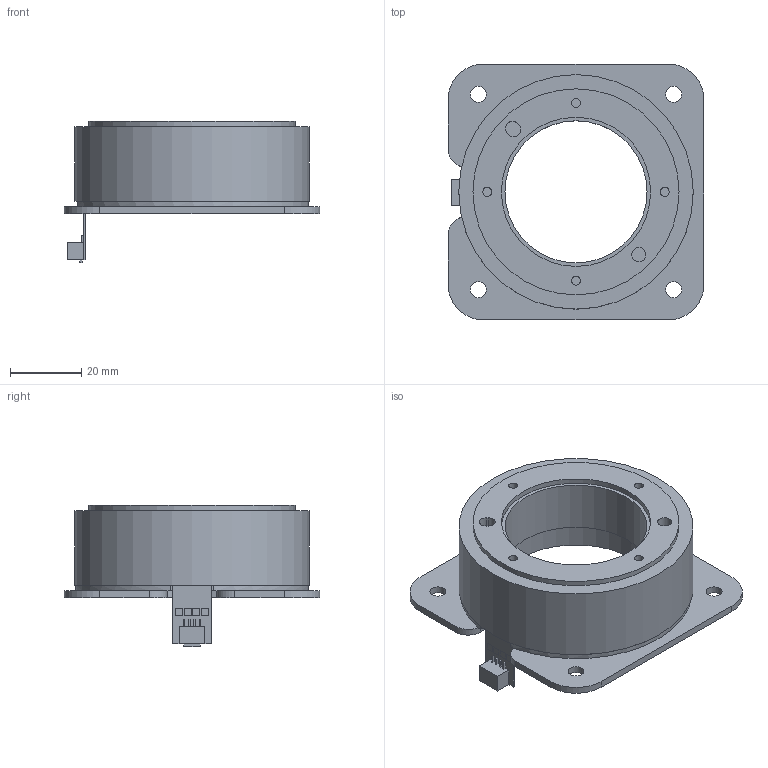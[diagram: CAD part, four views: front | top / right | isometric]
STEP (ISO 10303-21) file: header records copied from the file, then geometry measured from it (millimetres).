
FILE_DESCRIPTION(/* description */ (''),/* implementation_level */ '2;1');
FILE_NAME(/* name */ 'DM6624_11.stp',/* time_stamp */ '2020-03-11T14:31:59+01:00',/* author */ ('DR. FRITZ FAULHABER GmbH & Co. KG'),/* organization */ ('DR. FRITZ FAULHABER GmbH & Co. KG'),/* preprocessor_version */ 'ST-DEVELOPER v16.7',/* originating_system */ 'SIEMENS PLM Software NX 12.0',/* authorisation */ '');
FILE_SCHEMA (('AUTOMOTIVE_DESIGN { 1 0 10303 214 3 1 1 1 }'));
Length unit declared in the file: millimetre
Products named in the file (1): H00002347-A-6624.0H003
Bounding box: 72 x 72 x 39.76 mm (x, y, z)
Volume: 53315.7 mm3; surface area: 18319.6 mm2
Topology: 1 solids, 1 shells, 172 faces, 408 edges, 264 vertices
Faces by surface type: plane 127, cylinder 33, torus 6, cone 6
Full cylindrical faces by diameter (mm): 2.5 x4, 3 x6, 4 x1, 4.5 x4, 40 x1, 42 x1, 44 x1, 58 x2, 66 x1
Entity records: 4775 total; most frequent: CARTESIAN_POINT 810, DIRECTION 805, ORIENTED_EDGE 748, EDGE_CURVE 374, LINE 289, VECTOR 289, VERTEX_POINT 263, AXIS2_PLACEMENT_3D 258
